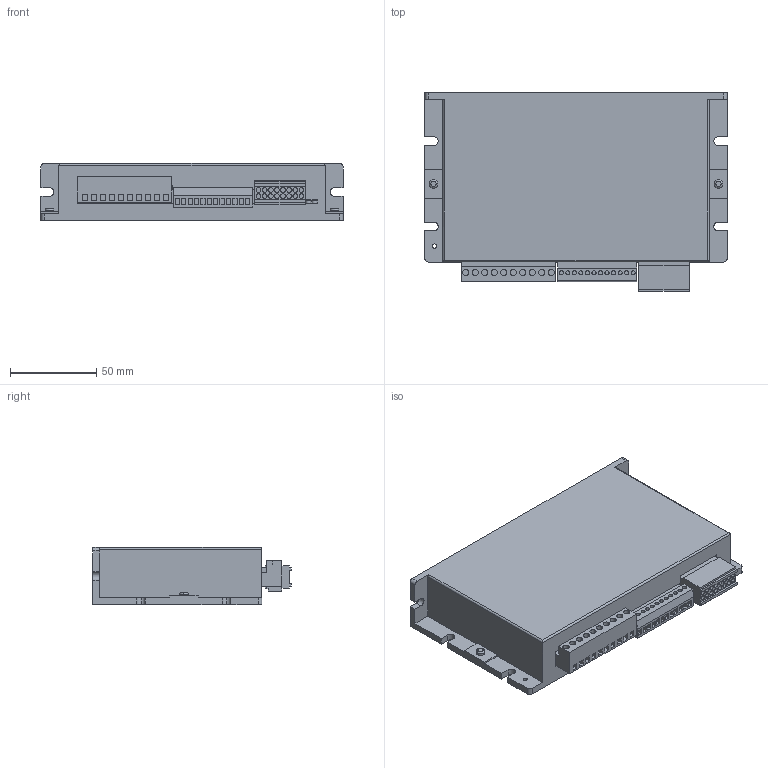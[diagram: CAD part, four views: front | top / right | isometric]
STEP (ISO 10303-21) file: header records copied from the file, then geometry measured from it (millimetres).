
FILE_DESCRIPTION (( 'STEP AP203' ), '1' );
FILE_NAME ('ECT60X2.STEP', '2023-10-25T08:00:41', ( '' ), ( '' ), 'SwSTEP 2.0', 'SolidWorks 2020', '' );
FILE_SCHEMA (( 'CONFIG_CONTROL_DESIGN' ));
Length unit declared in the file: millimetre
Products named in the file (1): ECT60X2
Bounding box: 175 x 115 x 33 mm (x, y, z)
Volume: 522747.7 mm3; surface area: 63642.4 mm2
Topology: 1 solids, 1 shells, 405 faces, 978 edges, 650 vertices
Faces by surface type: plane 300, cylinder 101, torus 4
Entity records: 11831 total; most frequent: CARTESIAN_POINT 2040, DIRECTION 1994, ORIENTED_EDGE 1956, EDGE_CURVE 978, VECTOR 770, LINE 770, VERTEX_POINT 650, AXIS2_PLACEMENT_3D 612
